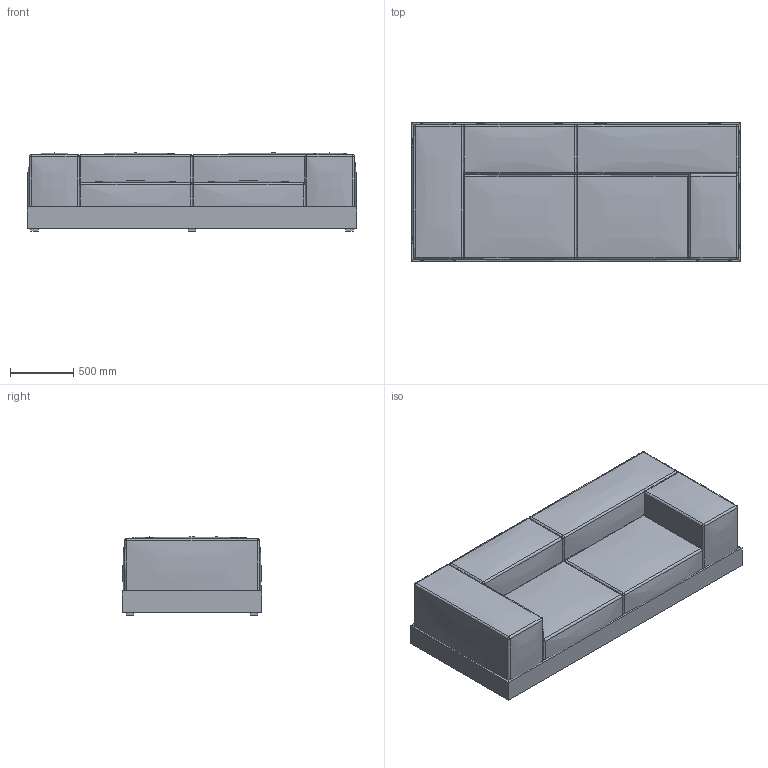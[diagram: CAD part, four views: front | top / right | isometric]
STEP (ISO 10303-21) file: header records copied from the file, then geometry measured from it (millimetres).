
FILE_DESCRIPTION(/* description */ (''),/* implementation_level */ '2;1');
FILE_NAME(/* name */ 'Polp1 260 sco.step',/* time_stamp */ '2024-01-07T10:24:54+01:00',/* author */ (''),/* organization */ (''),/* preprocessor_version */ 'ST-DEVELOPER v20',/* originating_system */ 'Autodesk Translation Framework v12.14.0.127',/* authorisation */ '');
FILE_SCHEMA (('AUTOMOTIVE_DESIGN { 1 0 10303 214 3 1 1 }'));
Length unit declared in the file: millimetre
Products named in the file (7): Polp1 260 sco; Component1; Component2; Component4; Component5; Component7; Component10
Assembly tree (6 placements, depth 2):
  Polp1 260 sco
    Component1
    Component2
    Component4
    Component5
    Component7
    Component10
Bounding box: 2600 x 1100 x 615 mm (x, y, z)
Volume: 1339111092.8 mm3; surface area: 21893246.3 mm2
Topology: 22 solids, 22 shells, 252 faces, 480 edges, 272 vertices
Faces by surface type: plane 114, bspline 73, sphere 48, cylinder 17
Entity records: 14337 total; most frequent: CARTESIAN_POINT 9438, ORIENTED_EDGE 960, DIRECTION 898, EDGE_CURVE 480, AXIS2_PLACEMENT_3D 336, VERTEX_POINT 272, FACE_OUTER_BOUND 252, EDGE_LOOP 252
